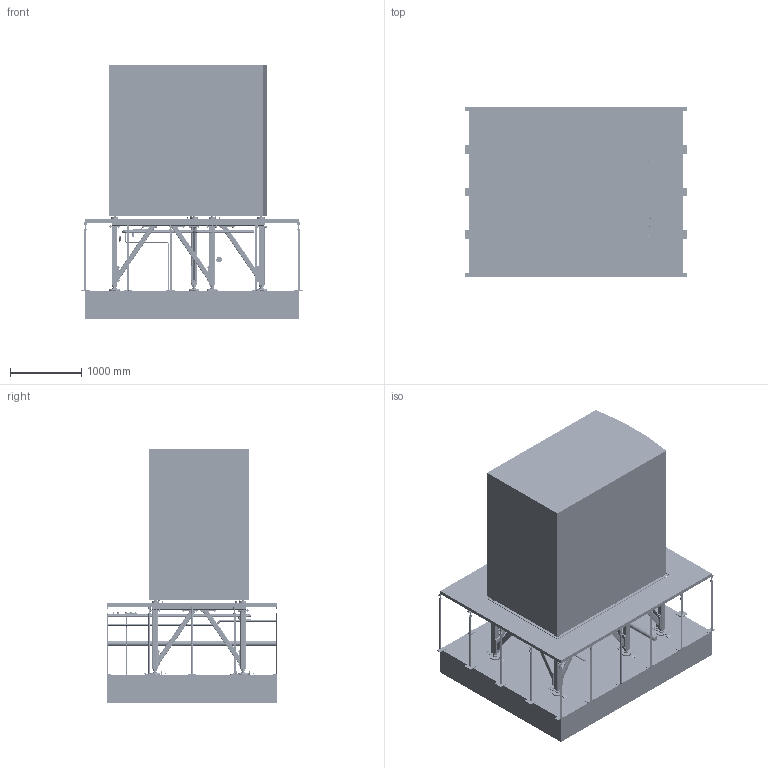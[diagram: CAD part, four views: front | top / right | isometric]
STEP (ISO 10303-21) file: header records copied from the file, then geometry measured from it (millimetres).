
FILE_DESCRIPTION (( 'STEP AP214' ), '1' );
FILE_NAME ('FAU-ALTA2-00 IMPLANTATION.STEP', '2025-01-30T16:49:39', ( '' ), ( '' ), 'SwSTEP 2.0', 'SolidWorks 2017', '' );
FILE_SCHEMA (( 'AUTOMOTIVE_DESIGN' ));
Length unit declared in the file: millimetre
Products named in the file (28): 22590.0020 Leveling Pads (0); FAU-ALTA2-09; FAU-ALTA2-ESQ; FAU-ALTA2-06_600 TAC<Brut d''usinage>; FAU-ALTA2-03; FAU-ALTA2-02_DWG; FAU-ALTA2-05_2<Brut d''usinage>; Z-Hilti Cheville M12; FAU-ALTA2-07_DWG; FAU-ALTA2-05_1; Z-h _m36x140; FAU-ALTA2-FP; FAU-ALTA2-00 IMPLANTATION; FAU-ALTA2-08_1; FAU-ALTA2-08; FAU-ALTA2-07; FAU-ALTA2-04; Z-Screw_H_SCREW H M10x30-26; FAU-ALTA2-05_2 1 TAC; FAU-ALTA2-05_1<Brut d''usinage>; Z-Washer_WASHER M 10; Z-Screw_H_SCREW H M10x60-26; FAU-ALTA2-DALLE; Z-M10 assy; FAU-ALTA2-02_D‚faut<Brut d''usinage>; FAU-ALTA2; Z-ecrou_din934_m36-10
Assembly tree (126 placements, depth 4):
  FAU-ALTA2-ESQ
  FAU-ALTA2-00 IMPLANTATION
    FAU-ALTA2
    FAU-ALTA2-DALLE
    FAU-ALTA2-FP
    FAU-ALTA2-02_DWG
      FAU-ALTA2-02_D‚faut<Brut d''usinage>
    FAU-ALTA2-05_2 1 TAC  x5
      FAU-ALTA2-05_1<Brut d''usinage>
      Z-M10 assy
        Z-Screw_H_SCREW H M10x30-26
        Z-Washer_WASHER M 10
      FAU-ALTA2-06_600 TAC<Brut d''usinage>
      FAU-ALTA2-07_DWG
        Z-h _m36x140
        Z-ecrou_din934_m36-10
        FAU-ALTA2-07
    FAU-ALTA2-08_1  x6
      Z-Hilti Cheville M12
      FAU-ALTA2-08
    FAU-ALTA2-05_1
      FAU-ALTA2-05_2<Brut d''usinage>
      Z-M10 assy  x8
        Z-Screw_H_SCREW H M10x30-26
        Z-Washer_WASHER M 10
      FAU-ALTA2-06_600 TAC<Brut d''usinage>
      FAU-ALTA2-07_DWG
        Z-h _m36x140
        Z-ecrou_din934_m36-10
        FAU-ALTA2-07
    FAU-ALTA2-09  x8
      FAU-ALTA2-09
      Z-Screw_H_SCREW H M10x60-26
      Z-Washer_WASHER M 10
    FAU-ALTA2-03
    FAU-ALTA2-04
    22590.0020 Leveling Pads (0)  x8
    Z-M10 assy  x48
      Z-Screw_H_SCREW H M10x30-26
      Z-Washer_WASHER M 10
Bounding box: 3120 x 2400 x 3570 mm (x, y, z)
Volume: 9685565973.6 mm3; surface area: 83880926.6 mm2
Topology: 782 solids, 782 shells, 8764 faces, 19752 edges, 12842 vertices
Faces by surface type: plane 4663, cylinder 2937, cone 1128, bspline 36
Entity records: 130313 total; most frequent: CARTESIAN_POINT 20157, DIRECTION 17243, ORIENTED_EDGE 15636, EDGE_CURVE 7818, AXIS2_PLACEMENT_3D 6063, VERTEX_POINT 5163, LINE 5117, VECTOR 5117
